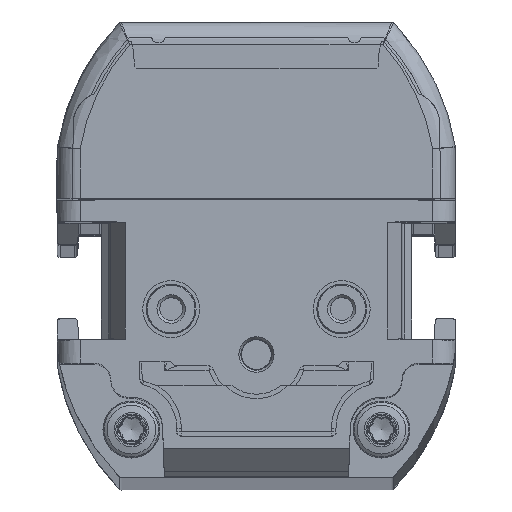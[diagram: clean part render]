
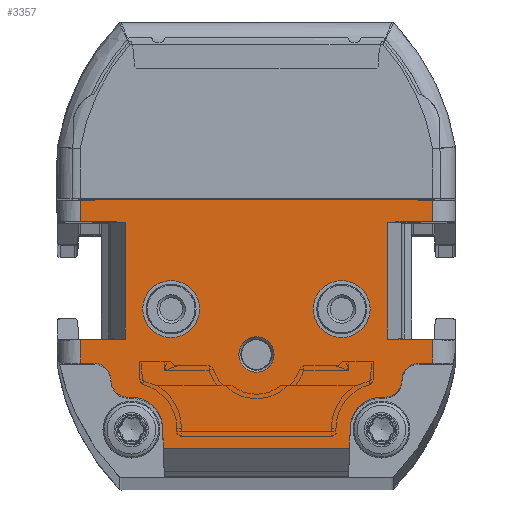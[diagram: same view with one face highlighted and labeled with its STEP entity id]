
A CAD part, top view. The second image highlights one B-rep face of the part: STEP entity #3357.
In plain terms, the highlighted planar face has unit normal (0, 0, 1).
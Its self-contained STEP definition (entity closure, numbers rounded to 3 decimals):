
#421=FACE_BOUND('',#5461,.T.);
#422=FACE_BOUND('',#5462,.T.);
#423=FACE_BOUND('',#5463,.T.);
#424=FACE_BOUND('',#5464,.T.);
#1906=CIRCLE('',#17211,2.5);
#1907=CIRCLE('',#17213,2.5);
#1908=CIRCLE('',#17215,1.55);
#1911=CIRCLE('',#17285,1.5);
#1912=CIRCLE('',#17286,1.5);
#1913=CIRCLE('',#17287,1.5);
#1914=CIRCLE('',#17288,1.5);
#1915=CIRCLE('',#17289,2.75);
#1916=CIRCLE('',#17290,2.75);
#3357=ADVANCED_FACE('',(#421,#422,#423,#424),#3872,.T.);
#3872=PLANE('',#17291);
#5461=EDGE_LOOP('',(#9126));
#5462=EDGE_LOOP('',(#9127));
#5463=EDGE_LOOP('',(#9128));
#5464=EDGE_LOOP('',(#9129,#9130,#9131,#9132,#9133,#9134,#9135,#9136,#9137,
#9138,#9139,#9140,#9141,#9142,#9143,#9144,#9145,#9146,#9147,#9148,#9149,
#9150,#9151,#9152,#9153,#9154));
#9126=ORIENTED_EDGE('',*,*,#13310,.T.);
#9127=ORIENTED_EDGE('',*,*,#13309,.F.);
#9128=ORIENTED_EDGE('',*,*,#13308,.F.);
#9129=ORIENTED_EDGE('',*,*,#13430,.F.);
#9130=ORIENTED_EDGE('',*,*,#13431,.T.);
#9131=ORIENTED_EDGE('',*,*,#13432,.T.);
#9132=ORIENTED_EDGE('',*,*,#13433,.T.);
#9133=ORIENTED_EDGE('',*,*,#13361,.T.);
#9134=ORIENTED_EDGE('',*,*,#13307,.T.);
#9135=ORIENTED_EDGE('',*,*,#13304,.T.);
#9136=ORIENTED_EDGE('',*,*,#13303,.T.);
#9137=ORIENTED_EDGE('',*,*,#13429,.T.);
#9138=ORIENTED_EDGE('',*,*,#13434,.F.);
#9139=ORIENTED_EDGE('',*,*,#13435,.F.);
#9140=ORIENTED_EDGE('',*,*,#13436,.F.);
#9141=ORIENTED_EDGE('',*,*,#13423,.T.);
#9142=ORIENTED_EDGE('',*,*,#13299,.F.);
#9143=ORIENTED_EDGE('',*,*,#13295,.T.);
#9144=ORIENTED_EDGE('',*,*,#13294,.F.);
#9145=ORIENTED_EDGE('',*,*,#13334,.T.);
#9146=ORIENTED_EDGE('',*,*,#13437,.F.);
#9147=ORIENTED_EDGE('',*,*,#13438,.T.);
#9148=ORIENTED_EDGE('',*,*,#13439,.T.);
#9149=ORIENTED_EDGE('',*,*,#13440,.F.);
#9150=ORIENTED_EDGE('',*,*,#13441,.F.);
#9151=ORIENTED_EDGE('',*,*,#13442,.F.);
#9152=ORIENTED_EDGE('',*,*,#13342,.T.);
#9153=ORIENTED_EDGE('',*,*,#13443,.F.);
#9154=ORIENTED_EDGE('',*,*,#13444,.F.);
#11277=VERTEX_POINT('',#30026);
#11278=VERTEX_POINT('',#30028);
#11279=VERTEX_POINT('',#30032);
#11280=VERTEX_POINT('',#30036);
#11282=VERTEX_POINT('',#30042);
#11284=VERTEX_POINT('',#30046);
#11285=VERTEX_POINT('',#30050);
#11286=VERTEX_POINT('',#30054);
#11287=VERTEX_POINT('',#30058);
#11288=VERTEX_POINT('',#30061);
#11289=VERTEX_POINT('',#30064);
#11306=VERTEX_POINT('',#30159);
#11311=VERTEX_POINT('',#30173);
#11312=VERTEX_POINT('',#30175);
#11325=VERTEX_POINT('',#30215);
#11359=VERTEX_POINT('',#30467);
#11363=VERTEX_POINT('',#30477);
#11364=VERTEX_POINT('',#30481);
#11365=VERTEX_POINT('',#30482);
#11366=VERTEX_POINT('',#30484);
#11367=VERTEX_POINT('',#30486);
#11368=VERTEX_POINT('',#30489);
#11369=VERTEX_POINT('',#30491);
#11370=VERTEX_POINT('',#30494);
#11371=VERTEX_POINT('',#30496);
#11372=VERTEX_POINT('',#30498);
#11373=VERTEX_POINT('',#30500);
#11374=VERTEX_POINT('',#30502);
#11375=VERTEX_POINT('',#30505);
#13294=EDGE_CURVE('',#11278,#11277,#14799,.T.);
#13295=EDGE_CURVE('',#11279,#11277,#14800,.T.);
#13299=EDGE_CURVE('',#11279,#11280,#14803,.T.);
#13303=EDGE_CURVE('',#11282,#11284,#14806,.T.);
#13304=EDGE_CURVE('',#11285,#11282,#14807,.T.);
#13307=EDGE_CURVE('',#11286,#11285,#14809,.T.);
#13308=EDGE_CURVE('',#11287,#11287,#1906,.T.);
#13309=EDGE_CURVE('',#11288,#11288,#1907,.T.);
#13310=EDGE_CURVE('',#11289,#11289,#1908,.T.);
#13334=EDGE_CURVE('',#11278,#11306,#14824,.T.);
#13342=EDGE_CURVE('',#11311,#11312,#14830,.T.);
#13361=EDGE_CURVE('',#11325,#11286,#14843,.T.);
#13423=EDGE_CURVE('',#11359,#11280,#14886,.T.);
#13429=EDGE_CURVE('',#11284,#11363,#14888,.T.);
#13430=EDGE_CURVE('',#11364,#11365,#14889,.T.);
#13431=EDGE_CURVE('',#11364,#11366,#1911,.T.);
#13432=EDGE_CURVE('',#11366,#11367,#1912,.T.);
#13433=EDGE_CURVE('',#11367,#11325,#14890,.T.);
#13434=EDGE_CURVE('',#11368,#11363,#14891,.T.);
#13435=EDGE_CURVE('',#11369,#11368,#14892,.T.);
#13436=EDGE_CURVE('',#11359,#11369,#14893,.T.);
#13437=EDGE_CURVE('',#11370,#11306,#14894,.T.);
#13438=EDGE_CURVE('',#11370,#11371,#1913,.T.);
#13439=EDGE_CURVE('',#11371,#11372,#1914,.T.);
#13440=EDGE_CURVE('',#11373,#11372,#14895,.T.);
#13441=EDGE_CURVE('',#11374,#11373,#1915,.T.);
#13442=EDGE_CURVE('',#11311,#11374,#14896,.T.);
#13443=EDGE_CURVE('',#11375,#11312,#14897,.T.);
#13444=EDGE_CURVE('',#11365,#11375,#1916,.T.);
#14799=LINE('',#30029,#15962);
#14800=LINE('',#30031,#15963);
#14803=LINE('',#30039,#15966);
#14806=LINE('',#30047,#15969);
#14807=LINE('',#30049,#15970);
#14809=LINE('',#30055,#15972);
#14824=LINE('',#30160,#15987);
#14830=LINE('',#30176,#15993);
#14843=LINE('',#30214,#16006);
#14886=LINE('',#30466,#16049);
#14888=LINE('',#30478,#16051);
#14889=LINE('',#30480,#16052);
#14890=LINE('',#30487,#16053);
#14891=LINE('',#30488,#16054);
#14892=LINE('',#30490,#16055);
#14893=LINE('',#30492,#16056);
#14894=LINE('',#30493,#16057);
#14895=LINE('',#30499,#16058);
#14896=LINE('',#30503,#16059);
#14897=LINE('',#30504,#16060);
#15962=VECTOR('',#20404,1.);
#15963=VECTOR('',#20407,1.);
#15966=VECTOR('',#20414,1.);
#15969=VECTOR('',#20421,1.);
#15970=VECTOR('',#20424,1.);
#15972=VECTOR('',#20430,1.);
#15987=VECTOR('',#20481,1.);
#15993=VECTOR('',#20495,1.);
#16006=VECTOR('',#20534,1.);
#16049=VECTOR('',#20645,1.);
#16051=VECTOR('',#20657,1.);
#16052=VECTOR('',#20660,1.);
#16053=VECTOR('',#20665,1.);
#16054=VECTOR('',#20666,1.);
#16055=VECTOR('',#20667,1.);
#16056=VECTOR('',#20668,1.);
#16057=VECTOR('',#20669,1.);
#16058=VECTOR('',#20674,1.);
#16059=VECTOR('',#20677,1.);
#16060=VECTOR('',#20678,1.);
#17211=AXIS2_PLACEMENT_3D('',#30057,#20433,#20434);
#17213=AXIS2_PLACEMENT_3D('',#30060,#20437,#20438);
#17215=AXIS2_PLACEMENT_3D('',#30063,#20441,#20442);
#17285=AXIS2_PLACEMENT_3D('',#30483,#20661,#20662);
#17286=AXIS2_PLACEMENT_3D('',#30485,#20663,#20664);
#17287=AXIS2_PLACEMENT_3D('',#30495,#20670,#20671);
#17288=AXIS2_PLACEMENT_3D('',#30497,#20672,#20673);
#17289=AXIS2_PLACEMENT_3D('',#30501,#20675,#20676);
#17290=AXIS2_PLACEMENT_3D('',#30506,#20679,#20680);
#17291=AXIS2_PLACEMENT_3D('',#30507,#20681,#20682);
#20404=DIRECTION('',(1.,0.017,0.));
#20407=DIRECTION('',(0.,-1.,0.));
#20414=DIRECTION('',(-1.,0.017,0.));
#20421=DIRECTION('',(1.,0.017,0.));
#20424=DIRECTION('',(0.,1.,0.));
#20430=DIRECTION('',(-1.,0.017,0.));
#20433=DIRECTION('',(0.,0.,1.));
#20434=DIRECTION('',(1.,0.,0.));
#20437=DIRECTION('',(0.,0.,1.));
#20438=DIRECTION('',(1.,0.,0.));
#20441=DIRECTION('',(0.,0.,-1.));
#20442=DIRECTION('',(1.,0.,0.));
#20481=DIRECTION('',(0.,-1.,0.));
#20495=DIRECTION('',(1.,0.,0.));
#20534=DIRECTION('',(0.,1.,0.));
#20645=DIRECTION('',(0.,-1.,0.));
#20657=DIRECTION('',(0.,1.,0.));
#20660=DIRECTION('',(-1.,0.,0.));
#20661=DIRECTION('',(0.,0.,1.));
#20662=DIRECTION('',(1.,0.,0.));
#20663=DIRECTION('',(0.,0.,-1.));
#20664=DIRECTION('',(1.,0.,0.));
#20665=DIRECTION('',(1.,0.,0.));
#20666=DIRECTION('',(1.,-0.017,0.));
#20667=DIRECTION('',(1.,0.,0.));
#20668=DIRECTION('',(1.,0.017,0.));
#20669=DIRECTION('',(-1.,0.,0.));
#20670=DIRECTION('',(0.,0.,-1.));
#20671=DIRECTION('',(1.,0.,0.));
#20672=DIRECTION('',(0.,0.,1.));
#20673=DIRECTION('',(1.,0.,0.));
#20674=DIRECTION('',(-1.,0.,0.));
#20675=DIRECTION('',(0.,0.,1.));
#20676=DIRECTION('',(1.,0.,0.));
#20677=DIRECTION('',(-0.035,0.999,0.));
#20678=DIRECTION('',(-0.035,-0.999,0.));
#20679=DIRECTION('',(0.,0.,1.));
#20680=DIRECTION('',(1.,0.,0.));
#20681=DIRECTION('',(0.,0.,1.));
#20682=DIRECTION('',(1.,0.,0.));
#30026=CARTESIAN_POINT('',(-11.55,12.107,666.));
#30028=CARTESIAN_POINT('',(-15.5,12.038,666.));
#30029=CARTESIAN_POINT('',(-17.709,11.999,666.));
#30031=CARTESIAN_POINT('',(-11.55,0.,666.));
#30032=CARTESIAN_POINT('',(-11.55,22.393,666.));
#30036=CARTESIAN_POINT('',(-15.5,22.462,666.));
#30039=CARTESIAN_POINT('',(-17.107,22.49,666.));
#30042=CARTESIAN_POINT('',(11.55,22.393,666.));
#30046=CARTESIAN_POINT('',(15.5,22.462,666.));
#30047=CARTESIAN_POINT('',(-17.882,21.88,666.));
#30049=CARTESIAN_POINT('',(11.55,0.,666.));
#30050=CARTESIAN_POINT('',(11.55,12.107,666.));
#30054=CARTESIAN_POINT('',(15.5,12.038,666.));
#30055=CARTESIAN_POINT('',(-17.28,12.61,666.));
#30057=CARTESIAN_POINT('',(-7.5,14.75,666.));
#30058=CARTESIAN_POINT('',(-5.,14.75,666.));
#30060=CARTESIAN_POINT('',(7.5,14.75,666.));
#30061=CARTESIAN_POINT('',(10.,14.75,666.));
#30063=CARTESIAN_POINT('',(0.,10.75,666.));
#30064=CARTESIAN_POINT('',(1.55,10.75,666.));
#30159=CARTESIAN_POINT('',(-15.5,10.,666.));
#30160=CARTESIAN_POINT('',(-15.5,0.,666.));
#30173=CARTESIAN_POINT('',(-8.189,2.5,666.));
#30175=CARTESIAN_POINT('',(8.189,2.5,666.));
#30176=CARTESIAN_POINT('',(-17.5,2.5,666.));
#30214=CARTESIAN_POINT('',(15.5,0.,666.));
#30215=CARTESIAN_POINT('',(15.5,10.,666.));
#30466=CARTESIAN_POINT('',(-15.5,0.,666.));
#30467=CARTESIAN_POINT('',(-15.5,24.317,666.));
#30477=CARTESIAN_POINT('',(15.5,24.317,666.));
#30478=CARTESIAN_POINT('',(15.5,0.,666.));
#30480=CARTESIAN_POINT('',(23.25,7.,666.));
#30481=CARTESIAN_POINT('',(11.3,7.,666.));
#30482=CARTESIAN_POINT('',(11.002,7.,666.));
#30483=CARTESIAN_POINT('',(11.3,8.5,666.));
#30484=CARTESIAN_POINT('',(12.8,8.5,666.));
#30485=CARTESIAN_POINT('',(14.3,8.5,666.));
#30486=CARTESIAN_POINT('',(14.3,10.,666.));
#30487=CARTESIAN_POINT('',(-17.5,10.,666.));
#30488=CARTESIAN_POINT('',(-17.066,24.886,666.));
#30489=CARTESIAN_POINT('',(13.025,24.36,666.));
#30490=CARTESIAN_POINT('',(-17.5,24.36,666.));
#30491=CARTESIAN_POINT('',(-13.025,24.36,666.));
#30492=CARTESIAN_POINT('',(-17.924,24.275,666.));
#30493=CARTESIAN_POINT('',(-17.5,10.,666.));
#30494=CARTESIAN_POINT('',(-14.3,10.,666.));
#30495=CARTESIAN_POINT('',(-14.3,8.5,666.));
#30496=CARTESIAN_POINT('',(-12.8,8.5,666.));
#30497=CARTESIAN_POINT('',(-11.3,8.5,666.));
#30498=CARTESIAN_POINT('',(-11.3,7.,666.));
#30499=CARTESIAN_POINT('',(-11.,7.,666.));
#30500=CARTESIAN_POINT('',(-11.002,7.,666.));
#30501=CARTESIAN_POINT('',(-11.002,4.25,666.));
#30502=CARTESIAN_POINT('',(-8.253,4.346,666.));
#30503=CARTESIAN_POINT('',(-8.25,4.25,666.));
#30504=CARTESIAN_POINT('',(8.25,4.25,666.));
#30505=CARTESIAN_POINT('',(8.253,4.346,666.));
#30506=CARTESIAN_POINT('',(11.002,4.25,666.));
#30507=CARTESIAN_POINT('',(-17.5,0.,666.));
